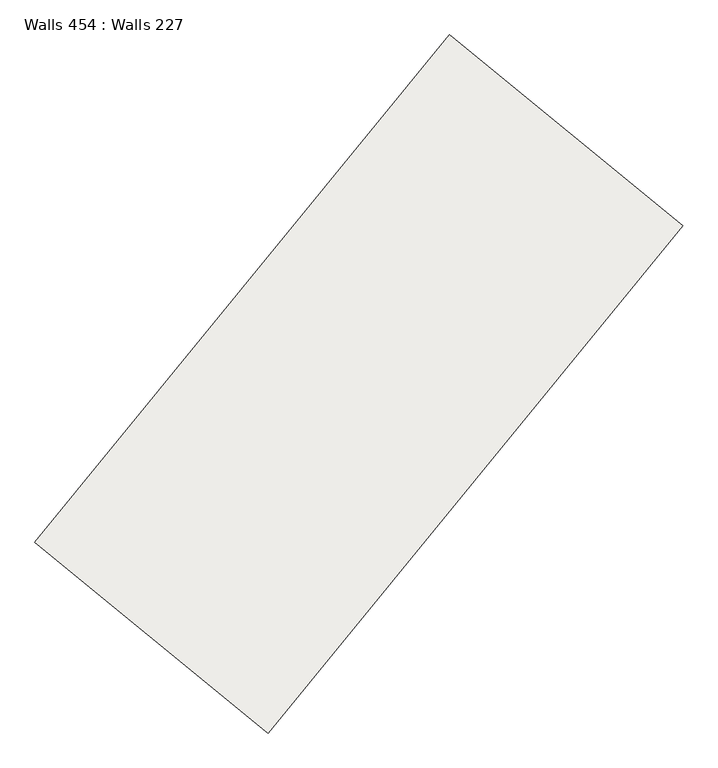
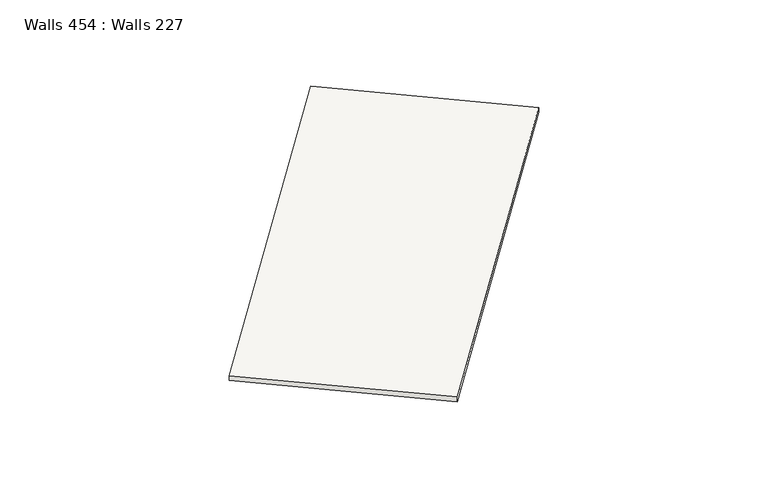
"""IFC4 building model written with IfcOpenShell, lengths in millimetres: slab geometry, Walls 454 : Walls 227."""

from ifc_helpers import new_model, si_unit, frame, origin, place, context, project, spatial, polyline, outline, extrude, source, transform, mapped, element, save


def walls_454_walls_227_0fe74a5e(model_context):
    return source(origin(), model_context, "Body", "SweptSolid", [
        extrude(outline(polyline([(-50.0, 0.0), (50.0, 0.0), (-62.0, -8699.9999993), (-162.0, -8699.9999993), (-50.0, 0.0)])), frame((418735.423663, 290604.1295064, 645312.0), z_axis=(-0.7739621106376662, 0.6332319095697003, 0.0), x_axis=(0.0, 0.0, 1.0)), (0.0, 0.0, 1.0), 4000.0),
    ])


if __name__ == "__main__":
    model = new_model("IFC4")
    model_context = context("Model", 3, world=origin())
    ifc_project = project(units=[si_unit("LENGTHUNIT", "METRE", prefix="MILLI")], contexts=[model_context])
    site = spatial("IfcSite", under=ifc_project)
    building = spatial("IfcBuilding", under=site)
    placement = place(None, origin())
    walls_454_walls_227_shape = walls_454_walls_227_0fe74a5e(model_context)
    element("IfcSlab", 1, ObjectType="Walls 454 : Walls 227", at=placement, inside=building, context=model_context, shape_type="MappedRepresentation", body=[
        mapped(walls_454_walls_227_shape, transform((0.0, 0.0, 0.0), x_axis=(1.0, 0.0, 0.0), y_axis=(0.0, 1.0, 0.0), z_axis=(0.0, 0.0, 1.0))),
    ])
    save(model, "model.ifc")
